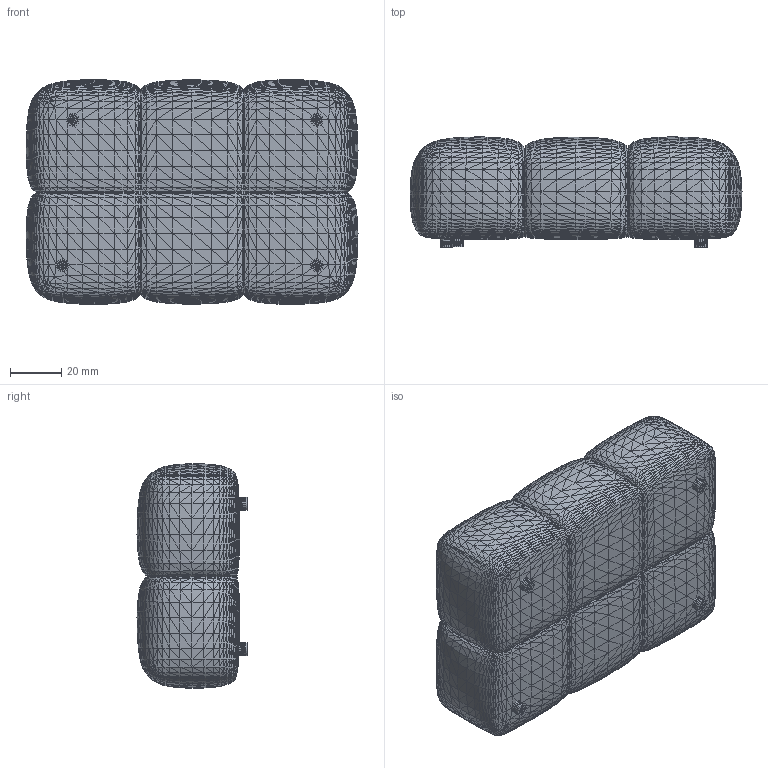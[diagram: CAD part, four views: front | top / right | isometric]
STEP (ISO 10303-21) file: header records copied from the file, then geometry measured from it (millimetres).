
FILE_DESCRIPTION((''),'2;1');
FILE_NAME('Pouf_130', '2025-04-29T12:57:51', (''), (''), 'ImageToStl.com STEP Converter','', '');
FILE_SCHEMA(('AUTOMOTIVE_DESIGN_CC2'));
Length unit declared in the file: metre
Products named in the file (2): product0; product1
Bounding box: 129.69 x 42.98 x 87.79 mm (x, y, z)
Topology: 0 solids, 8800 shells, 8800 faces, 26368 edges, 4979 vertices
Faces by surface type: plane 8800
Entity records: 203595 total; most frequent: DIRECTION 44002, ORIENTED_EDGE 26400, EDGE_CURVE 26400, LINE 26400, VECTOR 26400, AXIS2_PLACEMENT_3D 8801, FACE_SURFACE 8800, PLANE 8800
